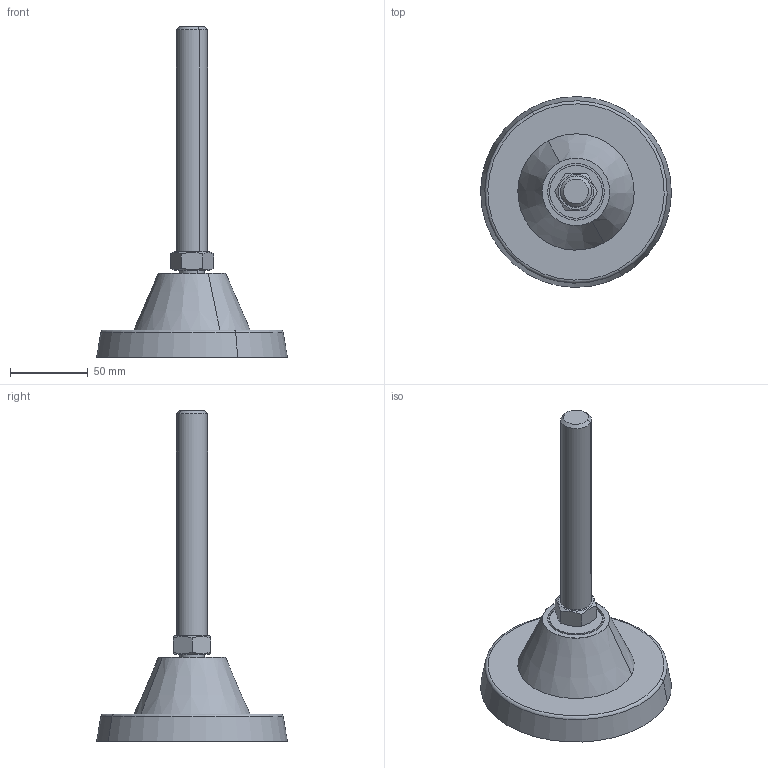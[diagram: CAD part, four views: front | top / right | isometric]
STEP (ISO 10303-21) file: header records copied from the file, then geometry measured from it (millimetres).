
FILE_DESCRIPTION(('CATIA V5 STEP Exchange'),'2;1');
FILE_NAME('C:\Users\ALI OZGUN\Desktop\alhan\ARTICULATED_FEET-PABUCLAR\502122021.stp','2017-09-08T06:28:28+00:00',('none'),('none'),'CATIA Version 5 Release 21 GA (IN-10)','CATIA V5 STEP AP203','none');
FILE_SCHEMA(('CONFIG_CONTROL_DESIGN'));
Length unit declared in the file: millimetre
Products named in the file (1): 502122021
Bounding box: 122.97 x 122.97 x 213 mm (x, y, z)
Volume: 214517.2 mm3; surface area: 73544 mm2
Topology: 3 solids, 3 shells, 127 faces, 330 edges, 216 vertices
Faces by surface type: plane 61, cylinder 32, cone 30, torus 2, sphere 2
Entity records: 3851 total; most frequent: CARTESIAN_POINT 1199, ORIENTED_EDGE 660, DIRECTION 330, EDGE_CURVE 330, VERTEX_POINT 216, AXIS2_PLACEMENT_3D 168, EDGE_LOOP 138, ADVANCED_FACE 127
